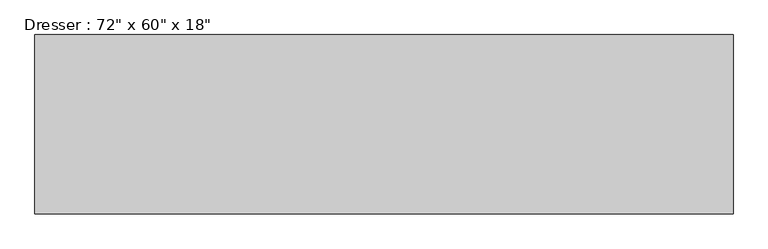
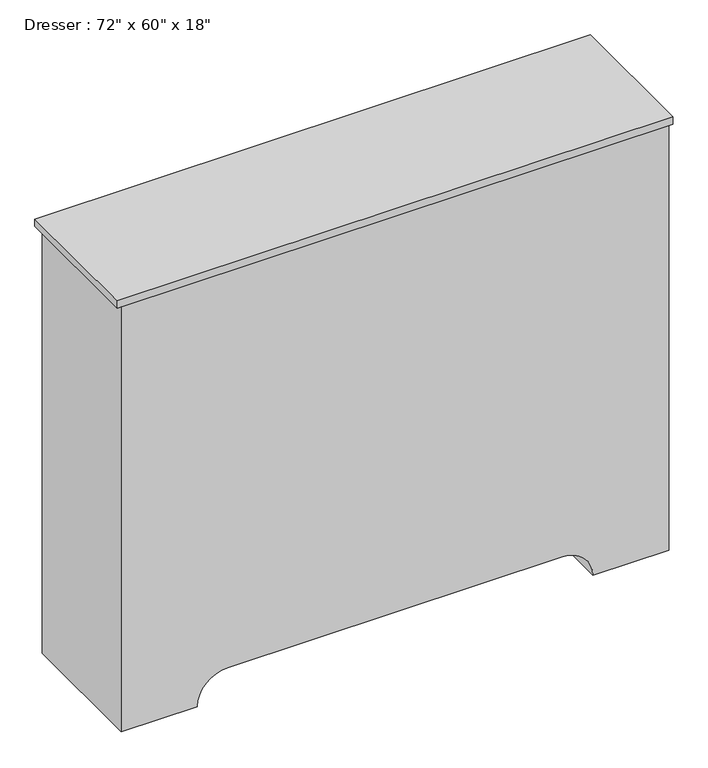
"""IFC4 building model written with IfcOpenShell, lengths in millimetres: furniture geometry."""

import ifcopenshell
import ifcopenshell.guid

model = None  # the IFC model being written
_history = None  # IfcOwnerHistory: only IFC2X3 demands one
_inside = {}  # id of a spatial element -> (the spatial element, [elements in it])
_under = {}  # id of a project, library or spatial element -> (it, [spatial elements below it])
_declared = {}  # id of a project -> (the project, [libraries it declares])
_typed = {}  # id of a type object -> (the type object, [elements of that type])
_made_of = {}  # id of a material, layer set ... -> (it, [elements and type objects made of it])


def new_model(schema):
    """Start an empty IFC model of exactly this schema.

    Asked for "IFC4X3", IfcOpenShell would pick the latest addendum, in which some entities
    have other attributes; the version numbers below select the first issue.
    IFC2X3 requires an IfcOwnerHistory on every rooted entity: one is made here for all.
    """
    global model, _history
    if schema == "IFC4X3":
        model = ifcopenshell.file(schema_version=(4, 3, 0, 0))
    else:
        model = ifcopenshell.file(schema=schema)
    _inside.clear()
    _under.clear()
    _declared.clear()
    _typed.clear()
    _made_of.clear()
    _history = None
    if model.schema == "IFC2X3":
        org = make("IfcOrganization", Name="unknown")
        user = make(
            "IfcPersonAndOrganization",
            ThePerson=make("IfcPerson", FamilyName="unknown"),
            TheOrganization=org,
        )
        app = make(
            "IfcApplication",
            ApplicationDeveloper=org,
            Version="unknown",
            ApplicationFullName="unknown",
            ApplicationIdentifier="unknown",
        )
        _history = make(
            "IfcOwnerHistory",
            OwningUser=user,
            OwningApplication=app,
            ChangeAction="ADDED",
            CreationDate=0,
        )
    return model


def make(cls, **values):
    """One entity of the class cls with the attributes given. An attribute that is None is left unset."""
    return model.create_entity(
        cls, **{name: value for name, value in values.items() if value is not None}
    )


def rooted(cls, **values):
    """An entity with a GlobalId (a new one), such as an element, a storey or a relation."""
    return make(cls, GlobalId=ifcopenshell.guid.new(), OwnerHistory=_history, **values)


def si_unit(unit_type, name, prefix=None):
    """IfcSIUnit, for example si_unit("LENGTHUNIT", "METRE", prefix="MILLI")."""
    return make("IfcSIUnit", UnitType=unit_type, Prefix=prefix, Name=name)


def assignment(units):
    """IfcUnitAssignment: the units of a project."""
    return None if units is None else make("IfcUnitAssignment", Units=units)


def point(xyz):
    """IfcCartesianPoint."""
    return None if xyz is None else make("IfcCartesianPoint", Coordinates=xyz)


def direction(xyz):
    """IfcDirection."""
    return None if xyz is None else make("IfcDirection", DirectionRatios=xyz)


def frame(location, z_axis=None, x_axis=None):
    """IfcAxis2Placement3D, a coordinate frame: its origin and axes. An axis left out is left unset."""
    return make(
        "IfcAxis2Placement3D",
        Location=point(location),
        Axis=direction(z_axis),
        RefDirection=direction(x_axis),
    )


def frame_2d(location, x_axis=None):
    """IfcAxis2Placement2D, a coordinate frame in the plane: its origin and x axis."""
    return make(
        "IfcAxis2Placement2D", Location=point(location), RefDirection=direction(x_axis)
    )


def origin():
    """The frame at (0, 0, 0) with its axes left unset."""
    return frame((0.0, 0.0, 0.0))


def place(relative_to, where):
    """IfcLocalPlacement: puts the frame where relative to a parent placement (None: the world)."""
    return make(
        "IfcLocalPlacement", PlacementRelTo=relative_to, RelativePlacement=where
    )


def context(
    kind, dimensions, precision=None, world=None, true_north=None, identifier=None
):
    """IfcGeometricRepresentationContext, for example the 3D "Model" context."""
    return make(
        "IfcGeometricRepresentationContext",
        ContextIdentifier=identifier,
        ContextType=kind,
        CoordinateSpaceDimension=dimensions,
        Precision=precision,
        WorldCoordinateSystem=world,
        TrueNorth=true_north,
    )


def project(units=None, contexts=None):
    """IfcProject with its units and contexts."""
    return rooted(
        "IfcProject",
        Name="project",
        RepresentationContexts=contexts,
        UnitsInContext=assignment(units),
    )


def spatial(cls, under=None, at=None, **own):
    """A site, building, storey or space (cls), placed at a placement, below another one or the project."""
    s = rooted(cls, ObjectPlacement=at, **own)
    if under is not None:
        _under.setdefault(under.id(), (under, []))[1].append(s)
    return s


def polyline(points):
    """IfcPolyline through the points."""
    return make("IfcPolyline", Points=[point(p) for p in points])


def circle_curve(where, radius):
    """IfcCircle in the frame where."""
    return make("IfcCircle", Position=where, Radius=radius)


def trimmed(basis, trim1, trim2, sense, master):
    """IfcTrimmedCurve: the piece of a basis curve between two trims."""
    return make(
        "IfcTrimmedCurve",
        BasisCurve=basis,
        Trim1=trim1,
        Trim2=trim2,
        SenseAgreement=sense,
        MasterRepresentation=master,
    )


def segment(curve, same_sense, transition):
    """IfcCompositeCurveSegment."""
    return make(
        "IfcCompositeCurveSegment",
        Transition=transition,
        SameSense=same_sense,
        ParentCurve=curve,
    )


def composite_curve(segments, self_intersect=None):
    """IfcCompositeCurve: segments joined end to end."""
    return make("IfcCompositeCurve", Segments=segments, SelfIntersect=self_intersect)


def outline(outer, holes=None, kind="AREA"):
    """IfcArbitraryClosedProfileDef: a profile drawn as a closed curve; with holes, ...WithVoids."""
    if holes is None:
        return make("IfcArbitraryClosedProfileDef", ProfileType=kind, OuterCurve=outer)
    return make(
        "IfcArbitraryProfileDefWithVoids",
        ProfileType=kind,
        OuterCurve=outer,
        InnerCurves=holes,
    )


def extrude(swept, where, along, depth):
    """IfcExtrudedAreaSolid: the profile swept, set in the frame where, extruded along a direction by depth."""
    return make(
        "IfcExtrudedAreaSolid",
        SweptArea=swept,
        Position=where,
        ExtrudedDirection=direction(along),
        Depth=depth,
    )


def shape(context_of_items, identifier, shape_type, items):
    """IfcShapeRepresentation: the items that make up one representation, for example the "Body"."""
    return make(
        "IfcShapeRepresentation",
        ContextOfItems=context_of_items,
        RepresentationIdentifier=identifier,
        RepresentationType=shape_type,
        Items=items,
    )


def source(mapping_origin, context_of_items, identifier, shape_type, items):
    """IfcRepresentationMap: a shape defined once, which mapped items show again and again."""
    return make(
        "IfcRepresentationMap",
        MappingOrigin=mapping_origin,
        MappedRepresentation=shape(context_of_items, identifier, shape_type, items),
    )


def transform(
    local_origin,
    x_axis=None,
    y_axis=None,
    z_axis=None,
    scale=None,
    scale2=None,
    scale3=None,
    uniform=True,
):
    """IfcCartesianTransformationOperator3D, or its non-uniform kind. x_axis, y_axis, z_axis: its Axis1, 2, 3."""
    if uniform:
        return make(
            "IfcCartesianTransformationOperator3D",
            Axis1=direction(x_axis),
            Axis2=direction(y_axis),
            LocalOrigin=point(local_origin),
            Scale=scale,
            Axis3=direction(z_axis),
        )
    return make(
        "IfcCartesianTransformationOperator3DnonUniform",
        Axis1=direction(x_axis),
        Axis2=direction(y_axis),
        LocalOrigin=point(local_origin),
        Scale=scale,
        Axis3=direction(z_axis),
        Scale2=scale2,
        Scale3=scale3,
    )


def mapped(mapping_source, mapping_target):
    """IfcMappedItem: shows the shape of a source again, moved by a transform."""
    return make(
        "IfcMappedItem", MappingSource=mapping_source, MappingTarget=mapping_target
    )


def made_of(thing, what):
    """Note that an element or type object is made of a material, layer set ...; save() writes the relation."""
    if what is not None:
        _made_of.setdefault(what.id(), (what, []))[1].append(thing)
    return thing


def element(
    cls,
    number,
    at=None,
    inside=None,
    cuts=None,
    type_object=None,
    material=None,
    context=None,
    identifier="Body",
    shape_type=None,
    held_by="IfcProductDefinitionShape",
    body=None,
    shapes=None,
    **own,
):
    """One element of the class cls, such as IfcWall. Its Tag is "e" and its number.

    at: its placement. inside: the storey or other place that contains it. cuts: it is an
    opening in that element (IfcRelVoidsElement). A single representation is given by context,
    identifier, shape_type and body (its items); several are given by shapes. held_by: the class
    of the entity that holds the representations. save() writes the other relations.
    """
    e = rooted(cls, Tag="e%d" % number, ObjectPlacement=at, **own)
    if body is not None:
        shapes = [shape(context, identifier, shape_type, body)]
    if shapes is not None:
        e.Representation = make(held_by, Representations=shapes)
    if inside is not None:
        _inside.setdefault(inside.id(), (inside, []))[1].append(e)
    if cuts is not None:
        rooted(
            "IfcRelVoidsElement", RelatingBuildingElement=cuts, RelatedOpeningElement=e
        )
    if type_object is not None:
        _typed.setdefault(type_object.id(), (type_object, []))[1].append(e)
    return made_of(e, material)


def aggregate(whole, parts):
    """IfcRelAggregates: a whole, such as a stair, and the parts it consists of."""
    return rooted("IfcRelAggregates", RelatingObject=whole, RelatedObjects=parts)


def save(model, path):
    """Write the relations noted so far, then the file.

    IfcRelAggregates (storeys below a building ...), IfcRelContainedInSpatialStructure (elements
    in a storey), IfcRelDefinesByType, IfcRelAssociatesMaterial and IfcRelDeclares: one each for
    every whole, place, type object, material and project.
    """
    for whole, parts in _under.values():
        aggregate(whole, parts)
    for where, things in _inside.values():
        rooted(
            "IfcRelContainedInSpatialStructure",
            RelatedElements=things,
            RelatingStructure=where,
        )
    for kind, things in _typed.values():
        rooted("IfcRelDefinesByType", RelatedObjects=things, RelatingType=kind)
    for what, things in _made_of.values():
        rooted("IfcRelAssociatesMaterial", RelatedObjects=things, RelatingMaterial=what)
    for by, libraries in _declared.values():
        rooted("IfcRelDeclares", RelatingContext=by, RelatedDefinitions=libraries)
    model.write(path)


def furniture_f6e81328(model_context):
    return source(origin(), model_context, "Body", "SweptSolid", [
        extrude(outline(polyline([(657.9067402, 134.5629541), (-1196.2932598, 134.5629541), (-1196.2932598, 610.8129541), (657.9067402, 610.8129541), (657.9067402, 134.5629541)])), frame((0.0, 0.0, 1498.6), z_axis=(0.0, 0.0, 1.0), x_axis=(1.0, 0.0, 0.0)), (0.0, 0.0, 1.0), 25.4),
        extrude(outline(composite_curve([segment(polyline([(0.0, 645.2067402), (1498.6, 645.2067402), (1498.6, -1183.5932598), (0.0, -1183.5932598), (0.0, -929.5932598)]), True, "CONTINUOUS"), segment(trimmed(circle_curve(frame_2d((0.0, -827.9932598)), 101.6), [point((0.0, -929.5932598))], [point((101.6, -827.9932598))], True, "CARTESIAN"), True, "CONTINUOUS"), segment(polyline([(101.6, -827.9932598), (101.6, 289.6067402)]), True, "CONTINUOUS"), segment(trimmed(circle_curve(frame_2d((0.0, 289.6067402)), 101.6), [point((101.6, 289.6067402))], [point((0.0, 391.2067402))], True, "CARTESIAN"), True, "CONTINUOUS"), segment(polyline([(0.0, 391.2067402), (0.0, 645.2067402)]), True, "CONTINUOUS")], self_intersect=False)), frame((0.0, 134.5629541, 0.0), z_axis=(0.0, 1.0, 0.0), x_axis=(0.0, 0.0, 1.0)), (0.0, 0.0, 1.0), 457.2),
        extrude(outline(composite_curve([segment(trimmed(circle_curve(frame_2d((1295.4, 162.6067402)), 25.4), [point((1295.4, 137.2067402))], [point((1295.4, 188.0067402))], False, "CARTESIAN"), True, "CONTINUOUS"), segment(trimmed(circle_curve(frame_2d((1295.4, 162.6067402)), 25.4), [point((1295.4, 188.0067402))], [point((1295.4, 137.2067402))], False, "CARTESIAN"), True, "CONTINUOUS")], self_intersect=False)), frame((0.0, 598.1129541, 0.0), z_axis=(0.0, 1.0, 0.0), x_axis=(0.0, 0.0, 1.0)), (0.0, 0.0, 1.0), 12.7),
        extrude(outline(composite_curve([segment(trimmed(circle_curve(frame_2d((990.6, 162.6067402)), 25.4), [point((990.6, 137.2067402))], [point((990.6, 188.0067402))], False, "CARTESIAN"), True, "CONTINUOUS"), segment(trimmed(circle_curve(frame_2d((990.6, 162.6067402)), 25.4), [point((990.6, 188.0067402))], [point((990.6, 137.2067402))], False, "CARTESIAN"), True, "CONTINUOUS")], self_intersect=False)), frame((0.0, 598.1129541, 0.0), z_axis=(0.0, 1.0, 0.0), x_axis=(0.0, 0.0, 1.0)), (0.0, 0.0, 1.0), 12.7),
        extrude(outline(composite_curve([segment(trimmed(circle_curve(frame_2d((685.8, 162.6067402)), 25.4), [point((685.8, 137.2067402))], [point((685.8, 188.0067402))], False, "CARTESIAN"), True, "CONTINUOUS"), segment(trimmed(circle_curve(frame_2d((685.8, 162.6067402)), 25.4), [point((685.8, 188.0067402))], [point((685.8, 137.2067402))], False, "CARTESIAN"), True, "CONTINUOUS")], self_intersect=False)), frame((0.0, 598.1129541, 0.0), z_axis=(0.0, 1.0, 0.0), x_axis=(0.0, 0.0, 1.0)), (0.0, 0.0, 1.0), 12.7),
        extrude(outline(composite_curve([segment(trimmed(circle_curve(frame_2d((381.0, 162.6067402)), 25.4), [point((381.0, 137.2067402))], [point((381.0, 188.0067402))], False, "CARTESIAN"), True, "CONTINUOUS"), segment(trimmed(circle_curve(frame_2d((381.0, 162.6067402)), 25.4), [point((381.0, 188.0067402))], [point((381.0, 137.2067402))], False, "CARTESIAN"), True, "CONTINUOUS")], self_intersect=False)), frame((0.0, 598.1129541, 0.0), z_axis=(0.0, 1.0, 0.0), x_axis=(0.0, 0.0, 1.0)), (0.0, 0.0, 1.0), 12.7),
        extrude(outline(composite_curve([segment(trimmed(circle_curve(frame_2d((381.0, -700.9932598)), 25.4), [point((381.0, -726.3932598))], [point((381.0, -675.5932598))], False, "CARTESIAN"), True, "CONTINUOUS"), segment(trimmed(circle_curve(frame_2d((381.0, -700.9932598)), 25.4), [point((381.0, -675.5932598))], [point((381.0, -726.3932598))], False, "CARTESIAN"), True, "CONTINUOUS")], self_intersect=False)), frame((0.0, 598.1129541, 0.0), z_axis=(0.0, 1.0, 0.0), x_axis=(0.0, 0.0, 1.0)), (0.0, 0.0, 1.0), 12.7),
        extrude(outline(composite_curve([segment(trimmed(circle_curve(frame_2d((685.8, -700.9932598)), 25.4), [point((685.8, -726.3932598))], [point((685.8, -675.5932598))], False, "CARTESIAN"), True, "CONTINUOUS"), segment(trimmed(circle_curve(frame_2d((685.8, -700.9932598)), 25.4), [point((685.8, -675.5932598))], [point((685.8, -726.3932598))], False, "CARTESIAN"), True, "CONTINUOUS")], self_intersect=False)), frame((0.0, 598.1129541, 0.0), z_axis=(0.0, 1.0, 0.0), x_axis=(0.0, 0.0, 1.0)), (0.0, 0.0, 1.0), 12.7),
        extrude(outline(composite_curve([segment(trimmed(circle_curve(frame_2d((990.6, -700.9932598)), 25.4), [point((990.6, -726.3932598))], [point((990.6, -675.5932598))], False, "CARTESIAN"), True, "CONTINUOUS"), segment(trimmed(circle_curve(frame_2d((990.6, -700.9932598)), 25.4), [point((990.6, -675.5932598))], [point((990.6, -726.3932598))], False, "CARTESIAN"), True, "CONTINUOUS")], self_intersect=False)), frame((0.0, 598.1129541, 0.0), z_axis=(0.0, 1.0, 0.0), x_axis=(0.0, 0.0, 1.0)), (0.0, 0.0, 1.0), 12.7),
        extrude(outline(composite_curve([segment(trimmed(circle_curve(frame_2d((1295.4, -700.9932598)), 25.4), [point((1295.4, -726.3932598))], [point((1295.4, -675.5932598))], False, "CARTESIAN"), True, "CONTINUOUS"), segment(trimmed(circle_curve(frame_2d((1295.4, -700.9932598)), 25.4), [point((1295.4, -675.5932598))], [point((1295.4, -726.3932598))], False, "CARTESIAN"), True, "CONTINUOUS")], self_intersect=False)), frame((0.0, 598.1129541, 0.0), z_axis=(0.0, 1.0, 0.0), x_axis=(0.0, 0.0, 1.0)), (0.0, 0.0, 1.0), 12.7),
        extrude(outline(polyline([(594.4067402, 598.1129541), (594.4067402, 591.7629541), (-1132.7932598, 591.7629541), (-1132.7932598, 598.1129541), (594.4067402, 598.1129541)])), frame((0.0, 0.0, 1155.7), z_axis=(0.0, 0.0, 1.0), x_axis=(1.0, 0.0, 0.0)), (0.0, 0.0, 1.0), 279.4),
        extrude(outline(polyline([(594.4067402, 598.1129541), (594.4067402, 591.7629541), (-1132.7932598, 591.7629541), (-1132.7932598, 598.1129541), (594.4067402, 598.1129541)])), frame((0.0, 0.0, 850.9), z_axis=(0.0, 0.0, 1.0), x_axis=(1.0, 0.0, 0.0)), (0.0, 0.0, 1.0), 279.4),
        extrude(outline(polyline([(594.4067402, 598.1129541), (594.4067402, 591.7629541), (-1132.7932598, 591.7629541), (-1132.7932598, 598.1129541), (594.4067402, 598.1129541)])), frame((0.0, 0.0, 546.1), z_axis=(0.0, 0.0, 1.0), x_axis=(1.0, 0.0, 0.0)), (0.0, 0.0, 1.0), 279.4),
        extrude(outline(polyline([(594.4067402, 598.1129541), (594.4067402, 591.7629541), (-1132.7932598, 591.7629541), (-1132.7932598, 598.1129541), (594.4067402, 598.1129541)])), frame((0.0, 0.0, 241.3), z_axis=(0.0, 0.0, 1.0), x_axis=(1.0, 0.0, 0.0)), (0.0, 0.0, 1.0), 279.4),
    ])


if __name__ == "__main__":
    model = new_model("IFC4")
    model_context = context("Model", 3, world=origin())
    ifc_project = project(units=[si_unit("LENGTHUNIT", "METRE", prefix="MILLI")], contexts=[model_context])
    site = spatial("IfcSite", under=ifc_project)
    building = spatial("IfcBuilding", under=site)
    placement = place(None, origin())
    furniture_shape = furniture_f6e81328(model_context)
    element("IfcFurniture", 1, ObjectType="Dresser : 72\" x 60\" x 18\"", at=placement, inside=building, context=model_context, shape_type="MappedRepresentation", body=[
        mapped(furniture_shape, transform((0.0, 0.0, 0.0), x_axis=(1.0, 0.0, 0.0), y_axis=(0.0, 1.0, 0.0), z_axis=(0.0, 0.0, 1.0))),
    ])
    save(model, "model.ifc")
